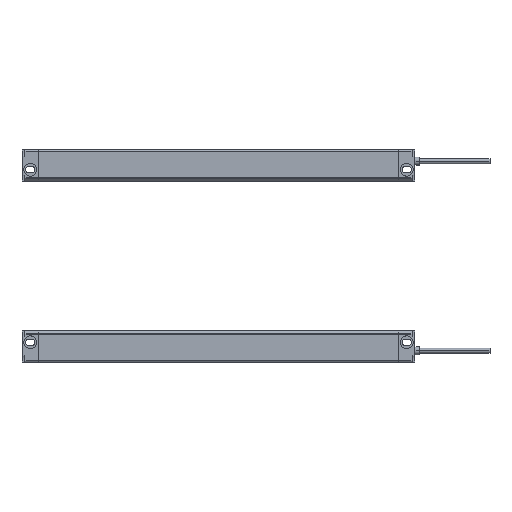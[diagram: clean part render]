
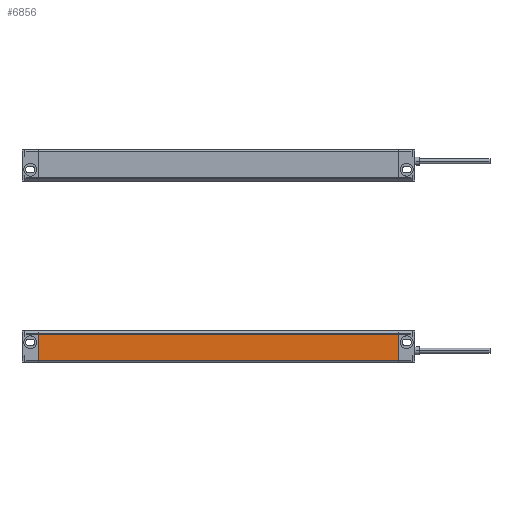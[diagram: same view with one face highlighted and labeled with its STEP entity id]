
A CAD part, left-side view. The second image highlights one B-rep face of the part: STEP entity #6856.
In plain terms, the highlighted planar face has unit normal (-1, 0, 0).
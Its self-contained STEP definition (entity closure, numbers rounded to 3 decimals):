
#168 = ORIENTED_EDGE ( 'NONE', *, *, #10874, .F. ) ;
#195 = CARTESIAN_POINT ( 'NONE',  ( -12.5, -240., 8.293 ) ) ;
#273 = DIRECTION ( 'NONE',  ( 0., 1., 0. ) ) ;
#1061 = EDGE_LOOP ( 'NONE', ( #3086, #168, #5962, #7070 ) ) ;
#1611 = CARTESIAN_POINT ( 'NONE',  ( -12.5, -240., 8.293 ) ) ;
#2275 = PLANE ( 'NONE',  #10458 ) ;
#2458 = DIRECTION ( 'NONE',  ( 0., 0., 1. ) ) ;
#2485 = CARTESIAN_POINT ( 'NONE',  ( -12.5, -240., -9.2 ) ) ;
#2742 = VECTOR ( 'NONE', #273, 1000. ) ;
#2747 = LINE ( 'NONE', #3188, #7221 ) ;
#3086 = ORIENTED_EDGE ( 'NONE', *, *, #8012, .F. ) ;
#3188 = CARTESIAN_POINT ( 'NONE',  ( -12.5, 0., -9.2 ) ) ;
#4742 = EDGE_CURVE ( 'NONE', #6563, #10251, #7628, .T. ) ;
#4942 = CARTESIAN_POINT ( 'NONE',  ( -12.5, -240., -9.2 ) ) ;
#5571 = CARTESIAN_POINT ( 'NONE',  ( -12.5, 0., -9.2 ) ) ;
#5962 = ORIENTED_EDGE ( 'NONE', *, *, #4742, .T. ) ;
#6563 = VERTEX_POINT ( 'NONE', #4942 ) ;
#6738 = CARTESIAN_POINT ( 'NONE',  ( -12.5, -240., -9.2 ) ) ;
#6856 = ADVANCED_FACE ( 'NONE', ( #9190 ), #2275, .T. ) ;
#7070 = ORIENTED_EDGE ( 'NONE', *, *, #7147, .T. ) ;
#7109 = DIRECTION ( 'NONE',  ( 0., 1., 0. ) ) ;
#7147 = EDGE_CURVE ( 'NONE', #10251, #9460, #9228, .T. ) ;
#7221 = VECTOR ( 'NONE', #7455, 1000. ) ;
#7455 = DIRECTION ( 'NONE',  ( 0., 0., 1. ) ) ;
#7628 = LINE ( 'NONE', #9173, #8531 ) ;
#8012 = EDGE_CURVE ( 'NONE', #8140, #9460, #2747, .T. ) ;
#8140 = VERTEX_POINT ( 'NONE', #5571 ) ;
#8204 = VECTOR ( 'NONE', #7109, 1000. ) ;
#8531 = VECTOR ( 'NONE', #2458, 1000. ) ;
#8663 = CARTESIAN_POINT ( 'NONE',  ( -12.5, 0., 8.293 ) ) ;
#9173 = CARTESIAN_POINT ( 'NONE',  ( -12.5, -240., -9.2 ) ) ;
#9190 = FACE_OUTER_BOUND ( 'NONE', #1061, .T. ) ;
#9228 = LINE ( 'NONE', #195, #2742 ) ;
#9267 = DIRECTION ( 'NONE',  ( -1., 0., 0. ) ) ;
#9460 = VERTEX_POINT ( 'NONE', #8663 ) ;
#10251 = VERTEX_POINT ( 'NONE', #1611 ) ;
#10453 = LINE ( 'NONE', #2485, #8204 ) ;
#10458 = AXIS2_PLACEMENT_3D ( 'NONE', #6738, #9267, #10650 ) ;
#10650 = DIRECTION ( 'NONE',  ( 0., 0., 1. ) ) ;
#10874 = EDGE_CURVE ( 'NONE', #6563, #8140, #10453, .T. ) ;
